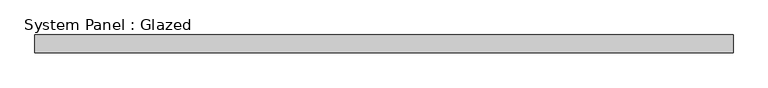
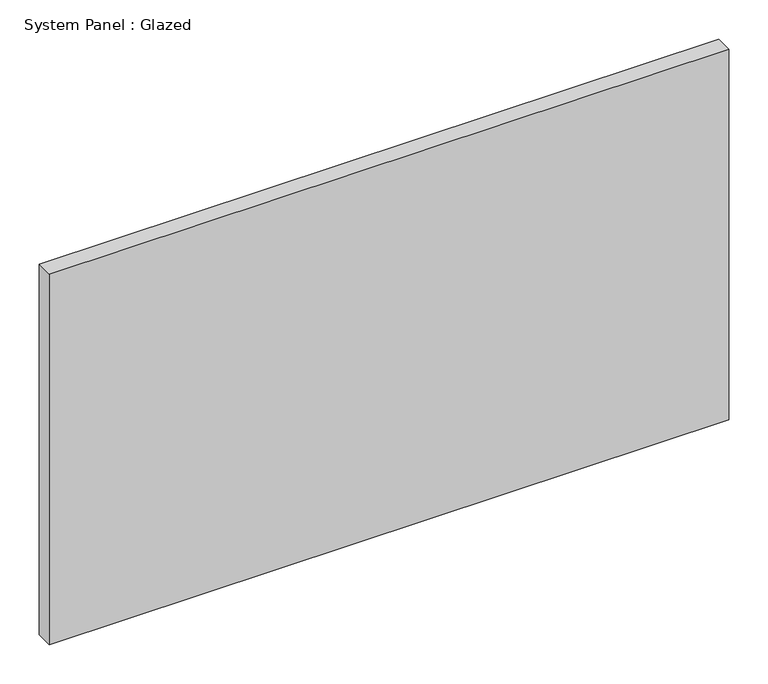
"""IFC4 building model written with IfcOpenShell, lengths in millimetres: plate geometry, System Panel : Glazed."""

from ifc_helpers import new_model, si_unit, origin, origin_with_axes, place, context, project, spatial, polyline, outline, extrude, source, transform, mapped, element, save


def system_panel_glazed_29ccdd55(model_context):
    return source(origin(), model_context, "Body", "SweptSolid", [
        extrude(outline(polyline([(501.1964286, 19.05), (-501.1964286, 19.05), (-501.1964286, 44.45), (501.1964286, 44.45), (501.1964286, 19.05)])), origin_with_axes(), (0.0, 0.0, 1.0), 577.85),
    ])


if __name__ == "__main__":
    model = new_model("IFC4")
    model_context = context("Model", 3, world=origin())
    ifc_project = project(units=[si_unit("LENGTHUNIT", "METRE", prefix="MILLI")], contexts=[model_context])
    site = spatial("IfcSite", under=ifc_project)
    building = spatial("IfcBuilding", under=site)
    placement = place(None, origin())
    system_panel_glazed_shape = system_panel_glazed_29ccdd55(model_context)
    element("IfcPlate", 1, ObjectType="System Panel : Glazed", at=placement, inside=building, context=model_context, shape_type="MappedRepresentation", body=[
        mapped(system_panel_glazed_shape, transform((0.0, 0.0, 0.0), x_axis=(1.0, 0.0, 0.0), y_axis=(0.0, 1.0, 0.0), z_axis=(0.0, 0.0, 1.0))),
    ])
    save(model, "model.ifc")
